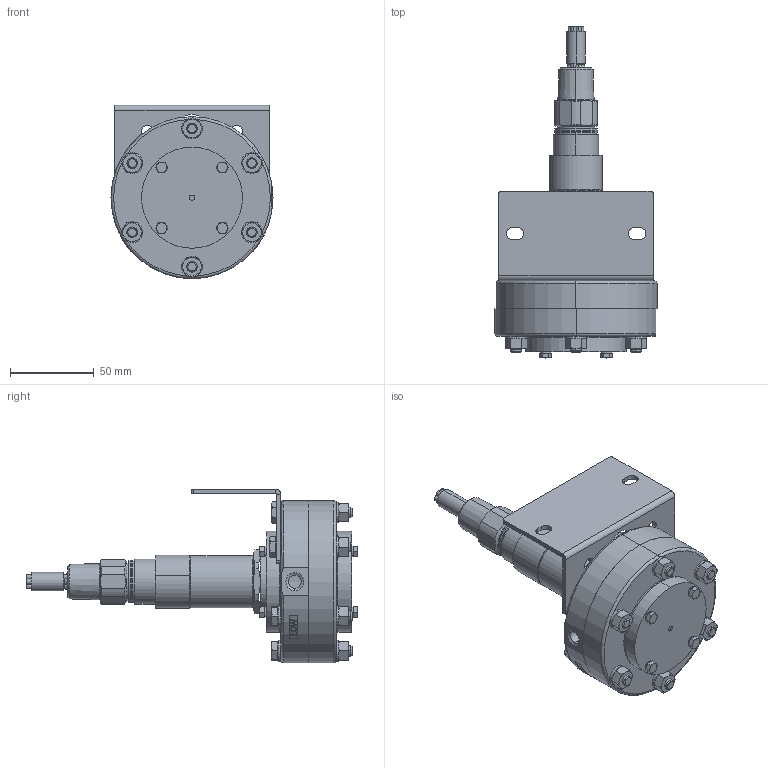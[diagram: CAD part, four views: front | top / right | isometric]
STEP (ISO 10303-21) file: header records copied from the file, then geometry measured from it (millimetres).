
FILE_DESCRIPTION (( 'STEP AP214' ), '1' );
FILE_NAME ('12SXXNK_4_6.STEP', '2025-04-04T18:27:17', ( '' ), ( '' ), 'SwSTEP 2.0', 'SolidWorks 2023', '' );
FILE_SCHEMA (( 'AUTOMOTIVE_DESIGN' ));
Length unit declared in the file: inch
Products named in the file (1): 12SXXNK_4_6
Bounding box: 96.77 x 198.22 x 103.57 mm (x, y, z)
Surface area: 82978.8 mm2 (no closed solid volume)
Topology: 0 solids, 73 shells, 685 faces, 2068 edges, 1421 vertices
Faces by surface type: plane 242, cylinder 230, cone 126, torus 68, bspline 10, sphere 9
Entity records: 26076 total; most frequent: CARTESIAN_POINT 7849, DIRECTION 3978, ORIENTED_EDGE 3284, EDGE_CURVE 2062, AXIS2_PLACEMENT_3D 1635, VERTEX_POINT 1420, CIRCLE 959, EDGE_LOOP 813
